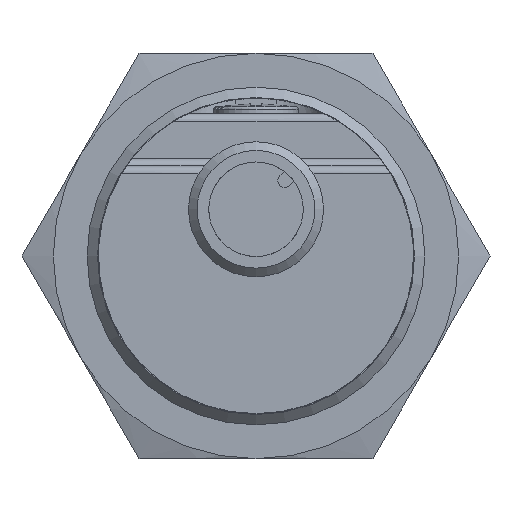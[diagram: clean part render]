
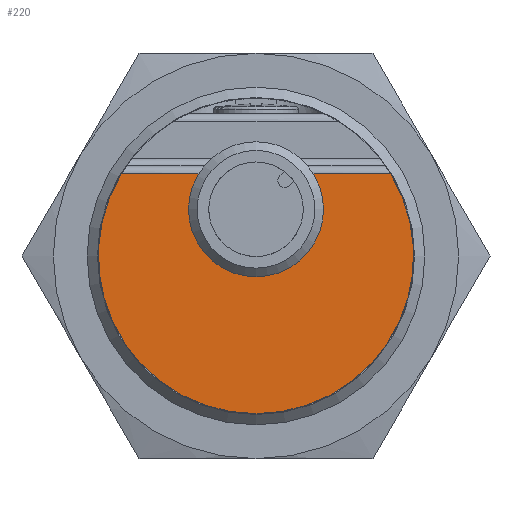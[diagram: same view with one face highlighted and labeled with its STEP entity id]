
A CAD part, left-side view. The second image highlights one B-rep face of the part: STEP entity #220.
In plain terms, the highlighted planar face has unit normal (-1, 0, 0).
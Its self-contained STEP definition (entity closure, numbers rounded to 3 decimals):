
#220 = ADVANCED_FACE( '', ( #349 ), #350, .F. );
#349 = FACE_OUTER_BOUND( '', #512, .T. );
#350 = PLANE( '', #513 );
#512 = EDGE_LOOP( '', ( #848, #849, #850, #851 ) );
#513 = AXIS2_PLACEMENT_3D( '', #852, #853, #854 );
#848 = ORIENTED_EDGE( '', *, *, #1146, .F. );
#849 = ORIENTED_EDGE( '', *, *, #1065, .F. );
#850 = ORIENTED_EDGE( '', *, *, #1071, .F. );
#851 = ORIENTED_EDGE( '', *, *, #1080, .F. );
#852 = CARTESIAN_POINT( '', ( 0., 0., 0. ) );
#853 = DIRECTION( '', ( 1., 0., 0. ) );
#854 = DIRECTION( '', ( 0., 0., -1. ) );
#1065 = EDGE_CURVE( '', #1207, #1209, #1210, .F. );
#1071 = EDGE_CURVE( '', #1218, #1207, #1220, .T. );
#1080 = EDGE_CURVE( '', #1236, #1218, #1238, .T. );
#1146 = EDGE_CURVE( '', #1209, #1236, #1351, .T. );
#1207 = VERTEX_POINT( '', #1450 );
#1209 = VERTEX_POINT( '', #1461 );
#1210 = CIRCLE( '', #1462, 5.225 );
#1218 = VERTEX_POINT( '', #1488 );
#1220 = LINE( '', #1499, #1500 );
#1236 = VERTEX_POINT( '', #1553 );
#1238 = CIRCLE( '', #1564, 14. );
#1351 = LINE( '', #1761, #1762 );
#1450 = CARTESIAN_POINT( '', ( 0., 4.169, 7.3 ) );
#1461 = CARTESIAN_POINT( '', ( 0., -4.169, 7.3 ) );
#1462 = AXIS2_PLACEMENT_3D( '', #1980, #1981, #1982 );
#1488 = CARTESIAN_POINT( '', ( 0., 11.946, 7.3 ) );
#1499 = CARTESIAN_POINT( '', ( 0., 20., 7.3 ) );
#1500 = VECTOR( '', #1985, 1000. );
#1553 = CARTESIAN_POINT( '', ( 0., -11.946, 7.3 ) );
#1564 = AXIS2_PLACEMENT_3D( '', #1994, #1995, #1996 );
#1761 = CARTESIAN_POINT( '', ( 0., 20., 7.3 ) );
#1762 = VECTOR( '', #2117, 1000. );
#1980 = CARTESIAN_POINT( '', ( 0., 0., 4.15 ) );
#1981 = DIRECTION( '', ( 1., 0., 0. ) );
#1982 = DIRECTION( '', ( 0., 0., -1. ) );
#1985 = DIRECTION( '', ( 0., -1., 0. ) );
#1994 = CARTESIAN_POINT( '', ( 0., 0., 0. ) );
#1995 = DIRECTION( '', ( 1., 0., 0. ) );
#1996 = DIRECTION( '', ( 0., 0., -1. ) );
#2117 = DIRECTION( '', ( 0., -1., 0. ) );
